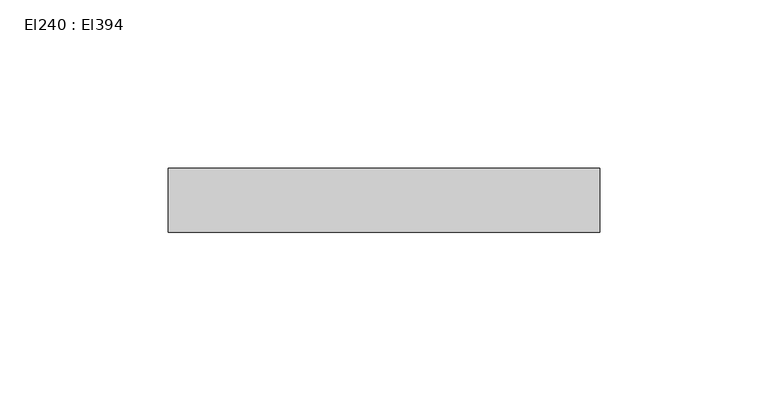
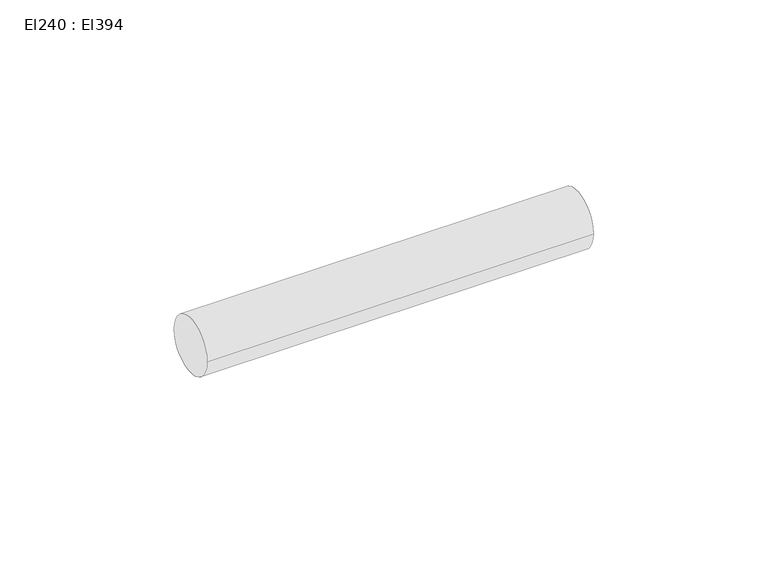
"""IFC4 building model written with IfcOpenShell, lengths in millimetres: cable carrier segment geometry, El240 : El394."""

from ifc_helpers import new_model, si_unit, point, frame, frame_2d, origin, place, context, project, spatial, circle_curve, trimmed, segment, composite_curve, outline, extrude, source, transform, mapped, element, save


def el240_el394_d23c8c79(model_context):
    return source(origin(), model_context, "Body", "SweptSolid", [
        extrude(outline(composite_curve([segment(trimmed(circle_curve(frame_2d((66.0121745, 2700.0)), 9.5), [point((56.5121745, 2700.0))], [point((75.5121745, 2700.0))], False, "CARTESIAN"), True, "CONTINUOUS"), segment(trimmed(circle_curve(frame_2d((66.0121745, 2700.0)), 9.5), [point((75.5121745, 2700.0))], [point((56.5121745, 2700.0))], False, "CARTESIAN"), True, "CONTINUOUS")], self_intersect=False)), frame((9878.4043511, 0.0, 0.0), z_axis=(1.0, 0.0, 0.0), x_axis=(0.0, 1.0, 0.0)), (0.0, 0.0, 1.0), 127.941),
    ])


if __name__ == "__main__":
    model = new_model("IFC4")
    model_context = context("Model", 3, world=origin())
    ifc_project = project(units=[si_unit("LENGTHUNIT", "METRE", prefix="MILLI")], contexts=[model_context])
    site = spatial("IfcSite", under=ifc_project)
    building = spatial("IfcBuilding", under=site)
    placement = place(None, origin())
    el240_el394_shape = el240_el394_d23c8c79(model_context)
    element("IfcCableCarrierSegment", 1, ObjectType="El240 : El394", at=placement, inside=building, context=model_context, shape_type="MappedRepresentation", body=[
        mapped(el240_el394_shape, transform((0.0, 0.0, 0.0), x_axis=(1.0, 0.0, 0.0), y_axis=(0.0, 1.0, 0.0), z_axis=(0.0, 0.0, 1.0))),
    ])
    save(model, "model.ifc")
